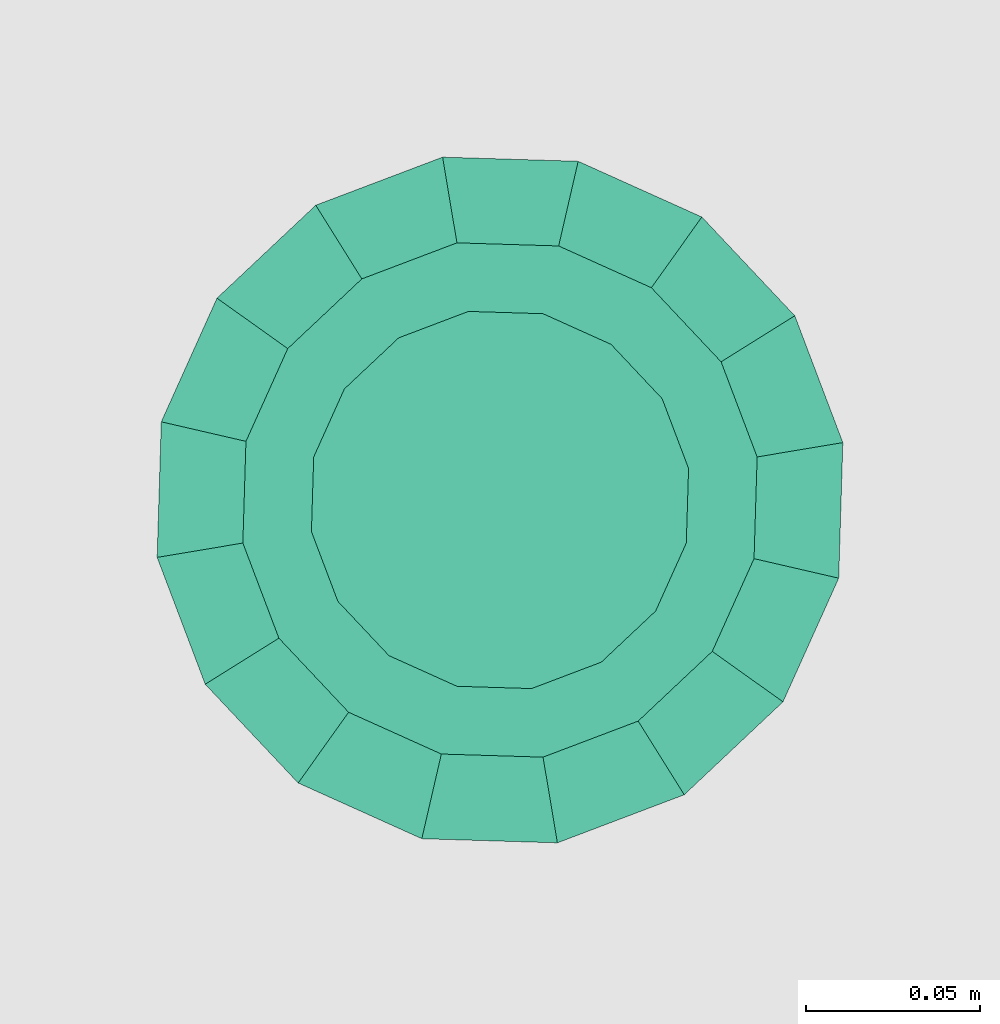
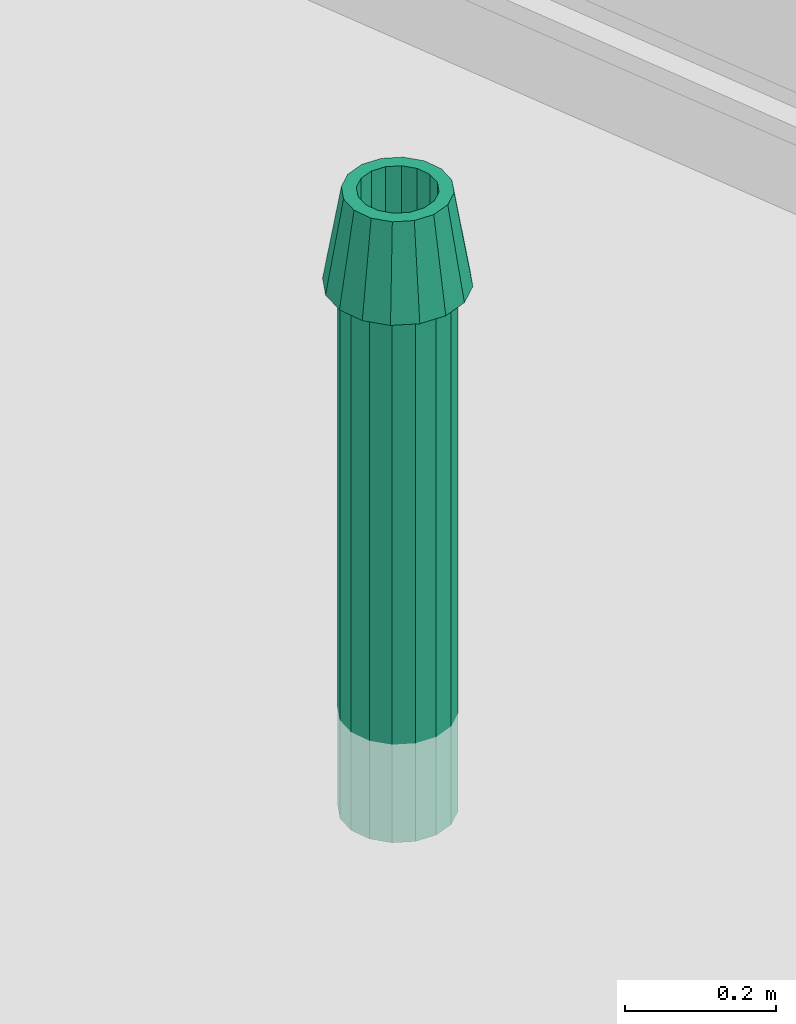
# One storey, part 52 of 62: 1 flow terminal.
"""IFC2X3 building model written with IfcOpenShell, lengths in metres."""

from ifc_helpers import new_model, entity, si_unit, converted_unit, derived_unit, money_unit, direction, frame, origin_with_axes, place, context, subcontext, project, spatial, faceted_brep, type_object, element, save


model = new_model("IFC2X3")

# Units and contexts
model_context = context("Model", 3, precision=1e-05, world=origin_with_axes(), true_north=direction((0.0, 1.0)))
body_context = subcontext(model_context, "Body", "Model", "MODEL_VIEW")
ifc_project = project(units=[si_unit("LENGTHUNIT", "METRE"), si_unit("AREAUNIT", "SQUARE_METRE"), si_unit("VOLUMEUNIT", "CUBIC_METRE"), converted_unit("PLANEANGLEUNIT", "DEGREE", entity("IfcPlaneAngleMeasure", 0.0174532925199), si_unit("PLANEANGLEUNIT", "RADIAN"), dimensions=[0, 0, 0, 0, 0, 0, 0]), si_unit("SOLIDANGLEUNIT", "STERADIAN"), money_unit("EUR"), converted_unit("TIMEUNIT", "Year", entity("IfcTimeMeasure", 31556926.0), si_unit("TIMEUNIT", "SECOND"), dimensions=[0, 0, 1, 0, 0, 0, 0]), si_unit("MASSUNIT", "GRAM", prefix="KILO"), si_unit("THERMODYNAMICTEMPERATUREUNIT", "DEGREE_CELSIUS"), si_unit("LUMINOUSINTENSITYUNIT", "LUMEN"), si_unit("ENERGYUNIT", "JOULE", prefix="MEGA"), derived_unit("THERMALCONDUCTANCEUNIT", [(si_unit("POWERUNIT", "WATT"), 1), (si_unit("LENGTHUNIT", "METRE"), -1), (si_unit("THERMODYNAMICTEMPERATUREUNIT", "KELVIN"), -1)]), derived_unit("SPECIFICHEATCAPACITYUNIT", [(si_unit("ENERGYUNIT", "JOULE"), 1), (si_unit("MASSUNIT", "GRAM", prefix="KILO"), -1), (si_unit("THERMODYNAMICTEMPERATUREUNIT", "KELVIN"), -1)]), derived_unit("MASSDENSITYUNIT", [(si_unit("MASSUNIT", "GRAM", prefix="KILO"), 1), (si_unit("VOLUMEUNIT", "CUBIC_METRE"), -1)])], contexts=[model_context])

# Site, building, storey
site_placement = place(None, origin_with_axes())
site = spatial("IfcSite", under=ifc_project, at=site_placement, Name="Site", CompositionType="ELEMENT")
building_placement = place(site_placement, origin_with_axes())
building = spatial("IfcBuilding", under=site, at=building_placement, Name="Bâtiment", CompositionType="ELEMENT")
storey_placement = place(building_placement, frame((0.0, 0.0, 8.16), z_axis=(0.0, 0.0, 1.0), x_axis=(1.0, 0.0, 0.0)))
storey = spatial("IfcBuildingStorey", under=building, at=storey_placement, Name="R+3", CompositionType="ELEMENT", Elevation=8.16)

# Flow terminal
stack_terminal_type = type_object("IfcStackTerminalType", Name="Conduit 23", PredefinedType="NOTDEFINED")
flow_terminal_placement = place(storey_placement, frame((-24.6444041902, -21.1998561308, 0.0), z_axis=(0.0, 0.0, 1.0), x_axis=(-0.97438734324, 0.224876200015, 0.0)))
element("IfcFlowTerminal", 1, at=flow_terminal_placement, inside=storey, type_object=stack_terminal_type, Name="MOB-002", ObjectType="STACK_TERMINAL", context=body_context, shape_type="Brep", body=[
    faceted_brep([(-0.0306146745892, -0.0739103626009, 0.85), (0.0, -0.08, 0.85), (0.0306146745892, -0.0739103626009, 0.85), (0.0565685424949, -0.0565685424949, 0.85), (0.0739103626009, -0.0306146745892, 0.85), (0.08, 0.0, 0.85), (0.0739103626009, 0.0306146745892, 0.85), (0.0565685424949, 0.0565685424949, 0.85), (0.0306146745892, 0.0739103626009, 0.85), (0.0, 0.08, 0.85), (-0.0306146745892, 0.0739103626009, 0.85), (-0.0565685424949, 0.0565685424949, 0.85), (-0.0739103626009, 0.0306146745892, 0.85), (-0.08, 0.0, 0.85), (-0.0739103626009, -0.0306146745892, 0.85), (-0.0565685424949, -0.0565685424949, 0.85), (-0.0388908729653, 0.0388908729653, 0.85), (-0.0210475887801, 0.0508133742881, 0.85), (0.0, 0.055, 0.85), (0.0210475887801, 0.0508133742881, 0.85), (0.0388908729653, 0.0388908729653, 0.85), (0.0508133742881, 0.0210475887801, 0.85), (0.055, 0.0, 0.85), (0.0508133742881, -0.0210475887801, 0.85), (0.0388908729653, -0.0388908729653, 0.85), (0.0210475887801, -0.0508133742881, 0.85), (0.0, -0.055, 0.85), (-0.0210475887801, -0.0508133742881, 0.85), (-0.0388908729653, -0.0388908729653, 0.85), (-0.0508133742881, -0.0210475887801, 0.85), (-0.055, 0.0, 0.85), (-0.0508133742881, 0.0210475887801, 0.85), (-0.0306146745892, -0.0739103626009, 0.0), (0.0, -0.08, 0.0), (0.0306146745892, -0.0739103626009, 0.0), (0.0565685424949, -0.0565685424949, 0.0), (0.0739103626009, -0.0306146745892, 0.0), (0.08, 0.0, 0.0), (0.0739103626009, 0.0306146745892, 0.0), (0.0565685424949, 0.0565685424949, 0.0), (0.0306146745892, 0.0739103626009, 0.0), (0.0, 0.08, 0.0), (-0.0306146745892, 0.0739103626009, 0.0), (-0.0565685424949, 0.0565685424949, 0.0), (-0.0739103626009, 0.0306146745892, 0.0), (-0.08, 0.0, 0.0), (-0.0739103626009, -0.0306146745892, 0.0), (-0.0565685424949, -0.0565685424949, 0.0), (-0.0388908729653, 0.0388908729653, 0.025), (-0.0210475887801, 0.0508133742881, 0.025), (0.0, 0.055, 0.025), (0.0210475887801, 0.0508133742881, 0.025), (0.0388908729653, 0.0388908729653, 0.025), (0.0508133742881, 0.0210475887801, 0.025), (0.055, 0.0, 0.025), (0.0508133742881, -0.0210475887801, 0.025), (0.0388908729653, -0.0388908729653, 0.025), (0.0210475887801, -0.0508133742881, 0.025), (0.0, -0.055, 0.025), (-0.0210475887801, -0.0508133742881, 0.025), (-0.0388908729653, -0.0388908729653, 0.025), (-0.0508133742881, -0.0210475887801, 0.025), (-0.055, 0.0, 0.025), (-0.0508133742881, 0.0210475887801, 0.025)], [[[0, 1, 2, 3, 4, 5, 6, 7, 8, 9, 10, 11, 12, 13, 14, 15], [16, 17, 18, 19, 20, 21, 22, 23, 24, 25, 26, 27, 28, 29, 30, 31]], [[32, 33, 1, 0]], [[33, 34, 2, 1]], [[34, 35, 3, 2]], [[35, 36, 4, 3]], [[36, 37, 5, 4]], [[37, 38, 6, 5]], [[38, 39, 7, 6]], [[39, 40, 8, 7]], [[40, 41, 9, 8]], [[41, 42, 10, 9]], [[42, 43, 11, 10]], [[43, 44, 12, 11]], [[44, 45, 13, 12]], [[45, 46, 14, 13]], [[46, 47, 15, 14]], [[47, 32, 0, 15]], [[16, 48, 49, 17]], [[17, 49, 50, 18]], [[18, 50, 51, 19]], [[19, 51, 52, 20]], [[20, 52, 53, 21]], [[21, 53, 54, 22]], [[22, 54, 55, 23]], [[23, 55, 56, 24]], [[24, 56, 57, 25]], [[25, 57, 58, 26]], [[26, 58, 59, 27]], [[27, 59, 60, 28]], [[28, 60, 61, 29]], [[29, 61, 62, 30]], [[30, 62, 63, 31]], [[31, 63, 48, 16]], [[42, 41, 40, 39, 38, 37, 36, 35, 34, 33, 32, 47, 46, 45, 44, 43]], [[48, 63, 62, 61, 60, 59, 58, 57, 56, 55, 54, 53, 52, 51, 50, 49]]]),
    faceted_brep([(-0.0707106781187, 0.0707106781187, 0.85), (-0.0382683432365, 0.0923879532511, 0.85), (0.0, 0.1, 0.85), (0.0382683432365, 0.0923879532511, 0.85), (0.0707106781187, 0.0707106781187, 0.85), (0.0923879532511, 0.0382683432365, 0.85), (0.1, 0.0, 0.85), (0.0923879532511, -0.0382683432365, 0.85), (0.0707106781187, -0.0707106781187, 0.85), (0.0382683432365, -0.0923879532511, 0.85), (0.0, -0.1, 0.85), (-0.0382683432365, -0.0923879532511, 0.85), (-0.0707106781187, -0.0707106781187, 0.85), (-0.0923879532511, -0.0382683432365, 0.85), (-0.1, 0.0, 0.85), (-0.0923879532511, 0.0382683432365, 0.85), (-0.0388908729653, -0.0388908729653, 0.85), (-0.0210475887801, -0.0508133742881, 0.85), (0.0, -0.055, 0.85), (0.0210475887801, -0.0508133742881, 0.85), (0.0388908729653, -0.0388908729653, 0.85), (0.0508133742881, -0.0210475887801, 0.85), (0.055, 0.0, 0.85), (0.0508133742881, 0.0210475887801, 0.85), (0.0388908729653, 0.0388908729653, 0.85), (0.0210475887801, 0.0508133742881, 0.85), (0.0, 0.055, 0.85), (-0.0210475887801, 0.0508133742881, 0.85), (-0.0388908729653, 0.0388908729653, 0.85), (-0.0508133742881, 0.0210475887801, 0.85), (-0.055, 0.0, 0.85), (-0.0508133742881, -0.0210475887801, 0.85), (-0.053033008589, 0.053033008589, 1.0), (-0.0287012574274, 0.0692909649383, 1.0), (0.0, 0.075, 1.0), (0.0287012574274, 0.0692909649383, 1.0), (0.053033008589, 0.053033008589, 1.0), (0.0692909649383, 0.0287012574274, 1.0), (0.075, 0.0, 1.0), (0.0692909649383, -0.0287012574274, 1.0), (0.053033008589, -0.053033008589, 1.0), (0.0287012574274, -0.0692909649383, 1.0), (0.0, -0.075, 1.0), (-0.0287012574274, -0.0692909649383, 1.0), (-0.053033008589, -0.053033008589, 1.0), (-0.0692909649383, -0.0287012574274, 1.0), (-0.075, 0.0, 1.0), (-0.0692909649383, 0.0287012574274, 1.0), (-0.0210475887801, -0.0508133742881, 1.0), (-0.0388908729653, -0.0388908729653, 1.0), (0.0, -0.055, 1.0), (0.0210475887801, -0.0508133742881, 1.0), (0.0388908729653, -0.0388908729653, 1.0), (0.0508133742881, -0.0210475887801, 1.0), (0.055, 0.0, 1.0), (0.0508133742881, 0.0210475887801, 1.0), (0.0388908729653, 0.0388908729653, 1.0), (0.0210475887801, 0.0508133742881, 1.0), (0.0, 0.055, 1.0), (-0.0210475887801, 0.0508133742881, 1.0), (-0.0388908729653, 0.0388908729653, 1.0), (-0.0508133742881, 0.0210475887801, 1.0), (-0.055, 0.0, 1.0), (-0.0508133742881, -0.0210475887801, 1.0)], [[[0, 1, 2, 3, 4, 5, 6, 7, 8, 9, 10, 11, 12, 13, 14, 15], [16, 17, 18, 19, 20, 21, 22, 23, 24, 25, 26, 27, 28, 29, 30, 31]], [[1, 0, 32, 33]], [[2, 1, 33, 34]], [[3, 2, 34, 35]], [[4, 3, 35, 36]], [[5, 4, 36, 37]], [[6, 5, 37, 38]], [[7, 6, 38, 39]], [[8, 7, 39, 40]], [[9, 8, 40, 41]], [[10, 9, 41, 42]], [[11, 10, 42, 43]], [[12, 11, 43, 44]], [[13, 12, 44, 45]], [[14, 13, 45, 46]], [[15, 14, 46, 47]], [[0, 15, 47, 32]], [[48, 17, 16, 49]], [[50, 18, 17, 48]], [[51, 19, 18, 50]], [[52, 20, 19, 51]], [[53, 21, 20, 52]], [[54, 22, 21, 53]], [[55, 23, 22, 54]], [[56, 24, 23, 55]], [[57, 25, 24, 56]], [[58, 26, 25, 57]], [[59, 27, 26, 58]], [[60, 28, 27, 59]], [[61, 29, 28, 60]], [[62, 30, 29, 61]], [[63, 31, 30, 62]], [[49, 16, 31, 63]], [[42, 41, 40, 39, 38, 37, 36, 35, 34, 33, 32, 47, 46, 45, 44, 43], [60, 59, 58, 57, 56, 55, 54, 53, 52, 51, 50, 48, 49, 63, 62, 61]]]),
])

save(model, "model.ifc")
